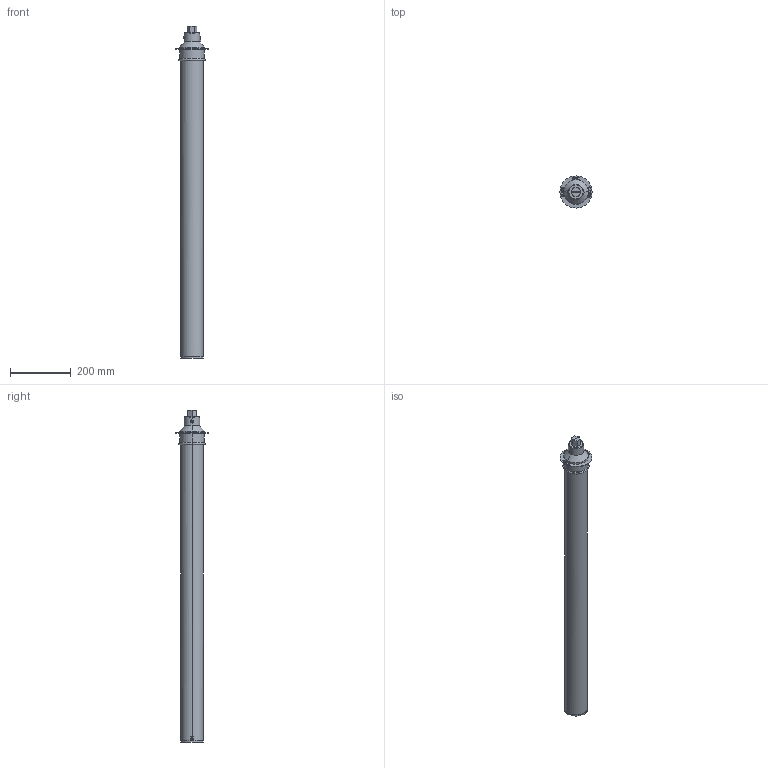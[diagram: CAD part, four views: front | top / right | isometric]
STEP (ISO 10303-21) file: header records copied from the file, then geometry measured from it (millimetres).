
FILE_DESCRIPTION((''),'2;1');
FILE_NAME('WUH2416-3-KHMO-050-065_BBV-SKT_ASM','2023-10-25T09:55:00',('jeitlers'),('KLINGER'),'CREO PARAMETRIC BY PTC INC, 2023014','CREO PARAMETRIC BY PTC INC, 2023014','');
FILE_SCHEMA(('CONFIG_CONTROL_DESIGN'));
Length unit declared in the file: millimetre
Products named in the file (13): WUH2416-HDPE-SCHUTZROHR; WUH2416-KUNSTSOFFKAPPE; WUH2416-TYPENSCHILD; WUH2416-ABDICHTKAPPE; WUH2416-SECHSKANTSCHONER-SW27; WUH2416-BETAETIGUNGSSTANGE-2565; WUH2416-KUPPELMUFFE-SW19; WUH2416-BETEATIGUNGSSTUECK-2565_ASM; DIN914_M5_10_GEWST_I6KT_SPITZ; DIN914_M8_16_GEWST_I6KT_SPITZ; KHMO-ADAPTER--050_0651_4021; DIN914_M8_20_GEWST_I6KT_SPITZ; WUH2416-3-KHMO-050-065_BBV-SKT_ASM
Assembly tree (13 placements, depth 3):
  WUH2416-3-KHMO-050-065_BBV-SKT_ASM
    WUH2416-HDPE-SCHUTZROHR
    WUH2416-KUNSTSOFFKAPPE
    WUH2416-TYPENSCHILD
    WUH2416-ABDICHTKAPPE
    WUH2416-SECHSKANTSCHONER-SW27
    WUH2416-BETEATIGUNGSSTUECK-2565_ASM
      WUH2416-BETAETIGUNGSSTANGE-2565
      WUH2416-KUPPELMUFFE-SW19
    DIN914_M5_10_GEWST_I6KT_SPITZ
    DIN914_M8_16_GEWST_I6KT_SPITZ
    KHMO-ADAPTER--050_0651_4021
    DIN914_M8_20_GEWST_I6KT_SPITZ  x2
Bounding box: 105 x 105 x 1089 mm (x, y, z)
Volume: 1624119.2 mm3; surface area: 665785 mm2
Topology: 13 solids, 26 shells, 628 faces, 1682 edges, 1103 vertices
Faces by surface type: plane 496, cylinder 78, cone 30, torus 20, bspline 2, sphere 2
Entity records: 20599 total; most frequent: CARTESIAN_POINT 5012, ORIENTED_EDGE 3198, DIRECTION 3040, EDGE_CURVE 1630, VECTOR 1358, LINE 1358, VERTEX_POINT 1074, AXIS2_PLACEMENT_3D 841
